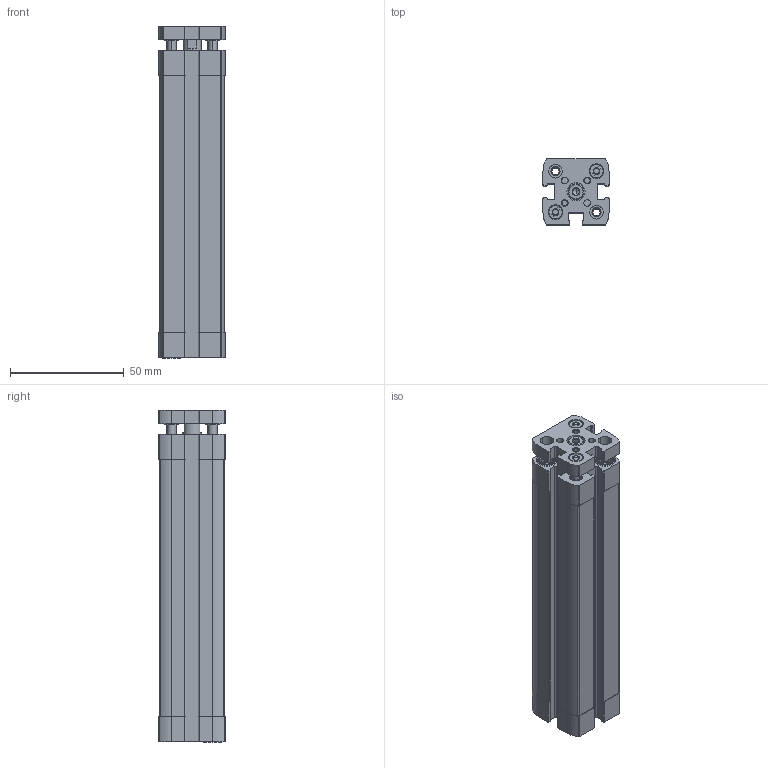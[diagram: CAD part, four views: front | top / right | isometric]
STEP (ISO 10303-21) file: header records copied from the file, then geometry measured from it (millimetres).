
FILE_DESCRIPTION (( 'STEP AP203' ), '1' );
FILE_NAME ('CCNG16-100.STEP', '2017-04-13T15:10:04', ( '' ), ( '' ), 'SwSTEP 2.0', 'SolidWorks 2016', '' );
FILE_SCHEMA (( 'CONFIG_CONTROL_DESIGN' ));
Length unit declared in the file: millimetre
Products named in the file (3): CCNG-16-100---(Z); CCNG-16-100--(KS); CCNG16-100
Assembly tree (2 placements, depth 2):
  CCNG16-100
    CCNG-16-100---(Z)
    CCNG-16-100--(KS)
Bounding box: 29 x 29 x 145.7 mm (x, y, z)
Volume: 80481.8 mm3; surface area: 44945.5 mm2
Topology: 2 solids, 6 shells, 545 faces, 1418 edges, 925 vertices
Faces by surface type: plane 257, cylinder 214, cone 70, bspline 4
Entity records: 17313 total; most frequent: CARTESIAN_POINT 3367, DIRECTION 2910, ORIENTED_EDGE 2832, EDGE_CURVE 1416, AXIS2_PLACEMENT_3D 1080, VERTEX_POINT 925, LINE 750, VECTOR 750
